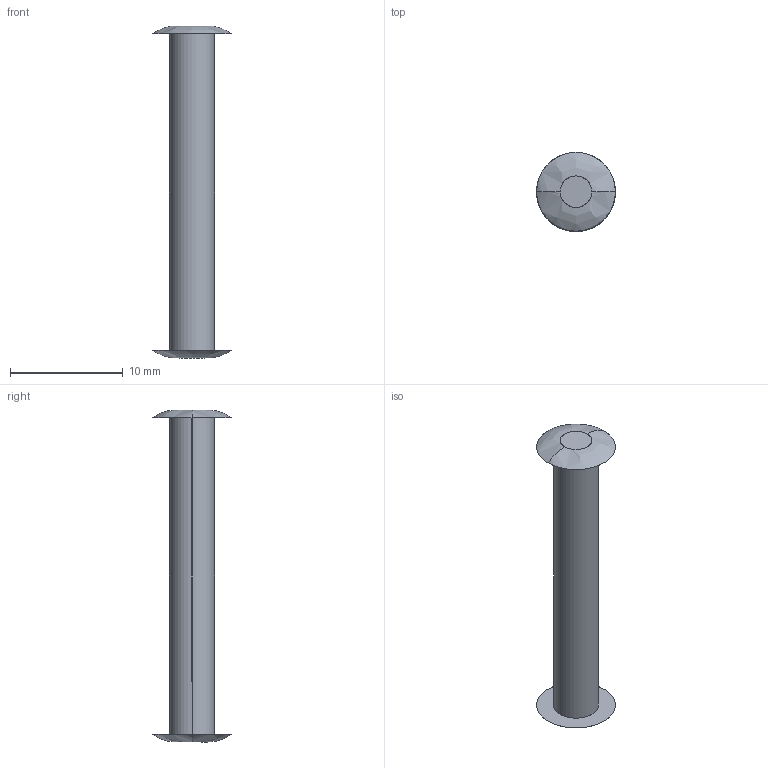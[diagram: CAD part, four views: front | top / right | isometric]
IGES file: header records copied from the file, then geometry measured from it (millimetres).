
Start section: SolidWorks IGES FILE using analytic representation for surfaces
Global section: file name: C:\Documents and Settings\brechard\Bureau\GE 84\84.040.00.IGS; native system: SolidWorks 2001Plus by SolidWorks Corporation; preprocessor: Version 5.3; author: brechard; date: 050126.111431; units: millimetre
Bounding box: 7 x 7 x 29.5 mm (x, y, z)
Surface area: 487.7 mm2 (no closed solid volume)
Topology: 0 solids, 0 shells, 10 faces, 216 edges, 216 vertices
Faces by surface type: bspline 8, revolution 2
